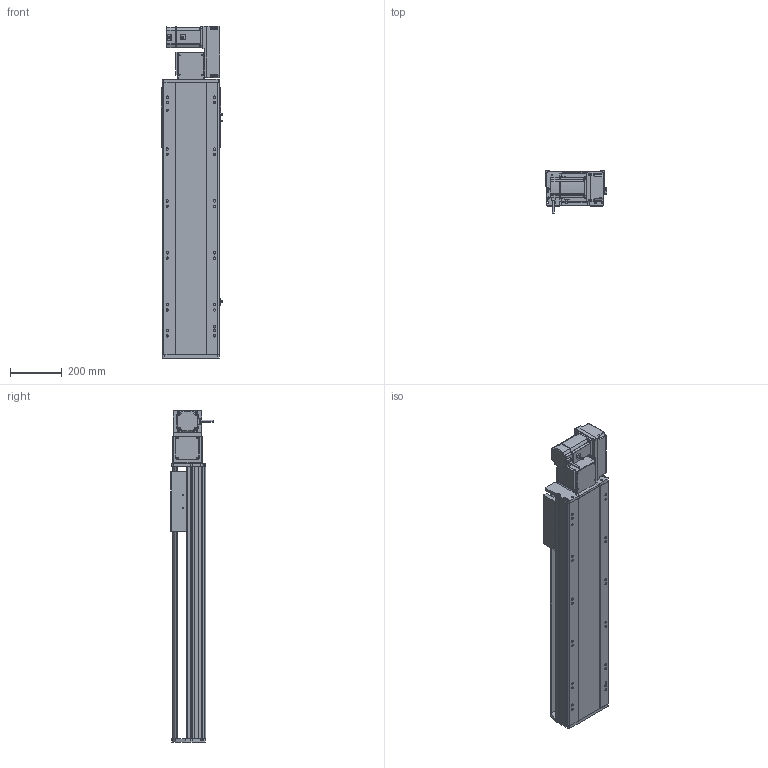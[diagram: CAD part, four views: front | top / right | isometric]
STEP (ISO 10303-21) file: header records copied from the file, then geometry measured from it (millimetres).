
FILE_DESCRIPTION (( 'STEP AP214' ), '1' );
FILE_NAME ('RTB22S-XX-700-R-M75-C4.STEP', '2025-12-12T07:17:15', ( '' ), ( '' ), 'SwSTEP 2.0', 'SolidWorks 2018', '' );
FILE_SCHEMA (( 'AUTOMOTIVE_DESIGN' ));
Length unit declared in the file: millimetre
Products named in the file (14): RTH22-GY-013外置感应片^RTB22S-XX-XX-R-M75-C4; RTB22S-GY-008-M75--萇儂啣^RTB22S-R-々湍釱蚾饜_RTB22S-XX-XX-R-M75-C4; RTB22S-R-々湍釱蚾饜^RTB22S-XX-XX-R-M75-C4; RTB22S-L-011菁釱^RTB22S-XX-XX-R-M75-C4; RTB22S-GY-018P^RTB22S-R-々湍釱蚾饜_RTB22S-XX-XX-R-M75-C4; RTB22S-GY-005P^RTB22S-R-々湍釱蚾饜_RTB22S-XX-XX-R-M75-C4; RTB22S-GY-014--々湍釱^RTB22S-R-々湍釱蚾饜_RTB22S-XX-XX-R-M75-C4; RTB22S-XX-700-R-M75-C4; OMRON EE-SX672 传感器^RTB22S-XX-XX-R-M75-C4; RTB22S-GY-017P^RTB22S-R-々湍釱蚾饜_RTB22S-XX-XX-R-M75-C4; RTB22S-L-004賑釱^RTB22S-XX-XX-R-M75-C4; RTB22S-GY-001耜裔^RTB22S-XX-XX-R-M75-C4; RTB22S-GY-007奻裔^RTB22S-XX-XX-R-M75-C4; 750W萇儂^RTB22S-XX-XX-R-M75-C4
Assembly tree (16 placements, depth 3):
  RTB22S-XX-700-R-M75-C4
    RTB22S-L-011菁釱^RTB22S-XX-XX-R-M75-C4
    RTB22S-GY-001耜裔^RTB22S-XX-XX-R-M75-C4
    750W萇儂^RTB22S-XX-XX-R-M75-C4
    RTB22S-GY-007奻裔^RTB22S-XX-XX-R-M75-C4
    RTB22S-L-004賑釱^RTB22S-XX-XX-R-M75-C4
    RTH22-GY-013外置感应片^RTB22S-XX-XX-R-M75-C4
    OMRON EE-SX672 传感器^RTB22S-XX-XX-R-M75-C4  x3
    RTB22S-R-々湍釱蚾饜^RTB22S-XX-XX-R-M75-C4
      RTB22S-GY-014--々湍釱^RTB22S-R-々湍釱蚾饜_RTB22S-XX-XX-R-M75-C4
      RTB22S-GY-017P^RTB22S-R-々湍釱蚾饜_RTB22S-XX-XX-R-M75-C4  x2
      RTB22S-GY-005P^RTB22S-R-々湍釱蚾饜_RTB22S-XX-XX-R-M75-C4
      RTB22S-GY-008-M75--萇儂啣^RTB22S-R-々湍釱蚾饜_RTB22S-XX-XX-R-M75-C4
      RTB22S-GY-018P^RTB22S-R-々湍釱蚾饜_RTB22S-XX-XX-R-M75-C4
Bounding box: 238.5 x 162.7 x 1279 mm (x, y, z)
Volume: 17792986.9 mm3; surface area: 1867191.3 mm2
Topology: 15 solids, 15 shells, 1947 faces, 5286 edges, 3392 vertices
Faces by surface type: plane 911, cylinder 598, bspline 296, cone 130, sphere 8, torus 4
Entity records: 51452 total; most frequent: CARTESIAN_POINT 14876, ORIENTED_EDGE 7376, DIRECTION 7062, EDGE_CURVE 3688, AXIS2_PLACEMENT_3D 2478, VERTEX_POINT 2396, VECTOR 2106, LINE 2106
